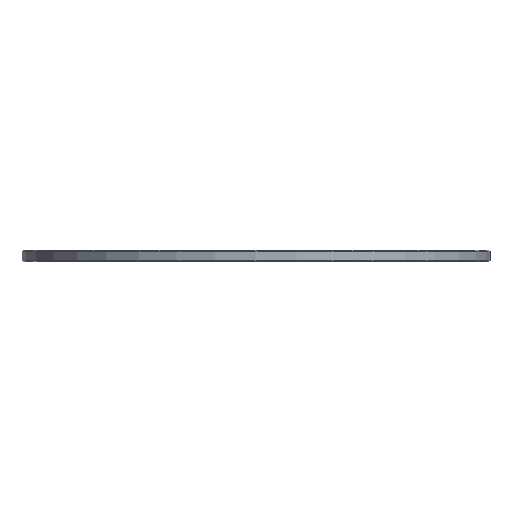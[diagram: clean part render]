
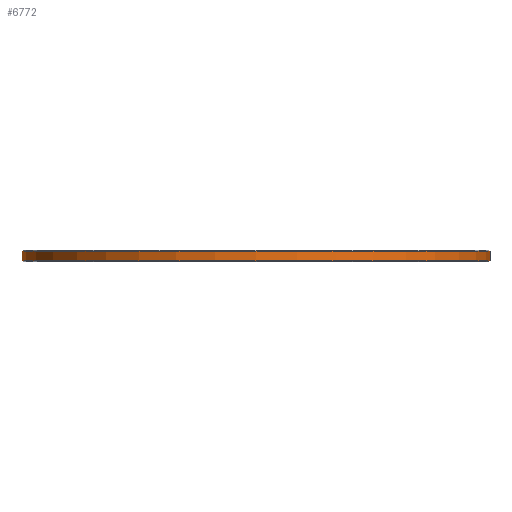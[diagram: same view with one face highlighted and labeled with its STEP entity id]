
A CAD part, front view. The second image highlights one B-rep face of the part: STEP entity #6772.
In plain terms, the highlighted cylindrical face has radius 62.5 mm (diameter 125 mm), a full revolution.
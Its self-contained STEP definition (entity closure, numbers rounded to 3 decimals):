
#89=CYLINDRICAL_SURFACE('',#7222,62.5);
#687=FACE_OUTER_BOUND('',#1098,.T.);
#1098=EDGE_LOOP('',(#6211,#6212,#6213,#6214));
#1226=CIRCLE('',#7221,62.5);
#1227=CIRCLE('',#7223,62.5);
#2049=LINE('',#10834,#2888);
#2888=VECTOR('',#8872,62.5);
#3512=VERTEX_POINT('',#10828);
#3513=VERTEX_POINT('',#10832);
#4416=EDGE_CURVE('',#3512,#3512,#1226,.T.);
#4418=EDGE_CURVE('',#3513,#3513,#1227,.T.);
#4419=EDGE_CURVE('',#3513,#3512,#2049,.T.);
#6211=ORIENTED_EDGE('',*,*,#4418,.F.);
#6212=ORIENTED_EDGE('',*,*,#4419,.T.);
#6213=ORIENTED_EDGE('',*,*,#4416,.F.);
#6214=ORIENTED_EDGE('',*,*,#4419,.F.);
#6772=ADVANCED_FACE('',(#687),#89,.T.);
#7221=AXIS2_PLACEMENT_3D('',#10829,#8865,#8866);
#7222=AXIS2_PLACEMENT_3D('',#10831,#8868,#8869);
#7223=AXIS2_PLACEMENT_3D('',#10833,#8870,#8871);
#8865=DIRECTION('center_axis',(0.,0.,-1.));
#8866=DIRECTION('ref_axis',(1.,0.,0.));
#8868=DIRECTION('center_axis',(0.,0.,1.));
#8869=DIRECTION('ref_axis',(1.,0.,0.));
#8870=DIRECTION('center_axis',(0.,0.,1.));
#8871=DIRECTION('ref_axis',(1.,0.,0.));
#8872=DIRECTION('',(0.,0.,-1.));
#10828=CARTESIAN_POINT('',(-62.5,0.,0.3));
#10829=CARTESIAN_POINT('Origin',(0.,0.,0.3));
#10831=CARTESIAN_POINT('Origin',(0.,0.,0.));
#10832=CARTESIAN_POINT('',(-62.5,0.,2.825));
#10833=CARTESIAN_POINT('Origin',(0.,0.,2.825));
#10834=CARTESIAN_POINT('',(-62.5,0.,0.));
